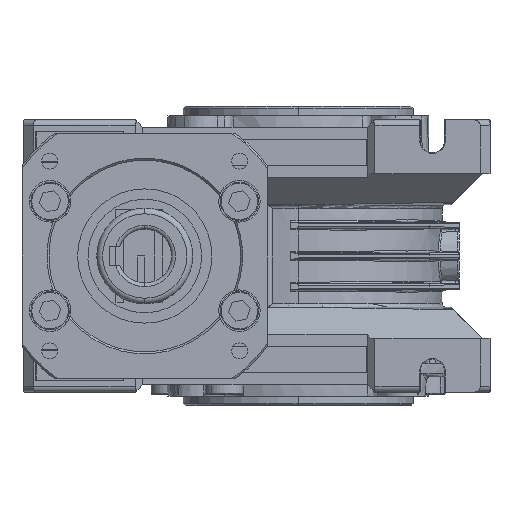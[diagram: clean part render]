
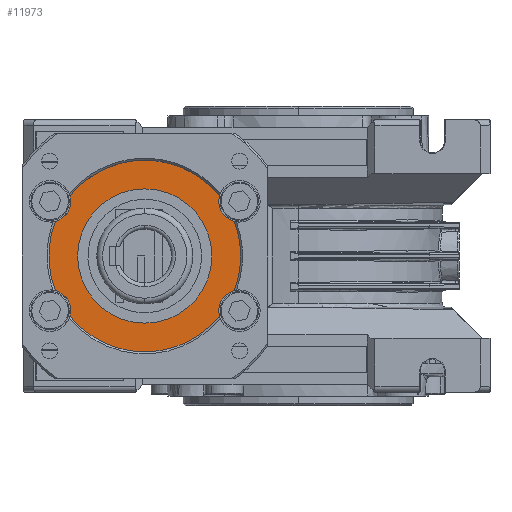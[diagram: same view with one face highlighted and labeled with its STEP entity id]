
A CAD part, left-side view. The second image highlights one B-rep face of the part: STEP entity #11973.
In plain terms, the highlighted planar face has unit normal (-1, 0, 0).
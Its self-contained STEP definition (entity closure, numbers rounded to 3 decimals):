
#103 = CIRCLE ( 'NONE', #39377, 5.4 ) ;
#1130 = EDGE_CURVE ( 'NONE', #15155, #16237, #71485, .T. ) ;
#1545 = FACE_BOUND ( 'NONE', #40374, .T. ) ;
#1933 = DIRECTION ( 'NONE',  ( 0., 0., -1. ) ) ;
#2255 = AXIS2_PLACEMENT_3D ( 'NONE', #63051, #17616, #51380 ) ;
#2259 = AXIS2_PLACEMENT_3D ( 'NONE', #19282, #29711, #2729 ) ;
#2729 = DIRECTION ( 'NONE',  ( 0., 0., -1. ) ) ;
#3965 = VERTEX_POINT ( 'NONE', #39524 ) ;
#4539 = ORIENTED_EDGE ( 'NONE', *, *, #48243, .T. ) ;
#5439 = CARTESIAN_POINT ( 'NONE',  ( -66., 63.314, -9.026 ) ) ;
#6163 = CARTESIAN_POINT ( 'NONE',  ( -66., 20.526, 15.677 ) ) ;
#6297 = EDGE_CURVE ( 'NONE', #14942, #48461, #19651, .T. ) ;
#7821 = CARTESIAN_POINT ( 'NONE',  ( -66., 15.318, -14.25 ) ) ;
#8361 = EDGE_CURVE ( 'NONE', #70045, #63647, #15912, .T. ) ;
#8575 = AXIS2_PLACEMENT_3D ( 'NONE', #11163, #50287, #60468 ) ;
#8757 = EDGE_CURVE ( 'NONE', #15155, #3965, #103, .T. ) ;
#9824 = DIRECTION ( 'NONE',  ( 0., 0., -1. ) ) ;
#10147 = VERTEX_POINT ( 'NONE', #51764 ) ;
#10858 = DIRECTION ( 'NONE',  ( 0., 0., -1. ) ) ;
#10883 = CARTESIAN_POINT ( 'NONE',  ( -66., 16.686, -9.026 ) ) ;
#11122 = CARTESIAN_POINT ( 'NONE',  ( -66., 64.682, 14.25 ) ) ;
#11163 = CARTESIAN_POINT ( 'NONE',  ( -66., 40., 0. ) ) ;
#11624 = ORIENTED_EDGE ( 'NONE', *, *, #58008, .T. ) ;
#11973 = ADVANCED_FACE ( 'NONE', ( #16322, #1545 ), #60251, .F. ) ;
#11992 = CARTESIAN_POINT ( 'NONE',  ( -66., 40., 0. ) ) ;
#12017 = CIRCLE ( 'NONE', #71288, 17.5 ) ;
#12348 = EDGE_CURVE ( 'NONE', #70045, #16237, #28394, .T. ) ;
#12595 = DIRECTION ( 'NONE',  ( 1., 0., 0. ) ) ;
#13688 = VERTEX_POINT ( 'NONE', #51269 ) ;
#14942 = VERTEX_POINT ( 'NONE', #5439 ) ;
#15155 = VERTEX_POINT ( 'NONE', #40753 ) ;
#15912 = CIRCLE ( 'NONE', #68347, 25. ) ;
#16237 = VERTEX_POINT ( 'NONE', #6163 ) ;
#16302 = DIRECTION ( 'NONE',  ( 1., 0., 0. ) ) ;
#16322 = FACE_OUTER_BOUND ( 'NONE', #31171, .T. ) ;
#16739 = DIRECTION ( 'NONE',  ( 0., 0., -1. ) ) ;
#17616 = DIRECTION ( 'NONE',  ( 1., 0., 0. ) ) ;
#18560 = DIRECTION ( 'NONE',  ( 0., 0., -1. ) ) ;
#18607 = AXIS2_PLACEMENT_3D ( 'NONE', #35024, #12595, #1933 ) ;
#19282 = CARTESIAN_POINT ( 'NONE',  ( -66., 64.682, -14.25 ) ) ;
#19651 = CIRCLE ( 'NONE', #2259, 5.4 ) ;
#20219 = CIRCLE ( 'NONE', #21571, 17.5 ) ;
#20787 = DIRECTION ( 'NONE',  ( 1., 0., 0. ) ) ;
#20914 = DIRECTION ( 'NONE',  ( 0., 0., -1. ) ) ;
#21571 = AXIS2_PLACEMENT_3D ( 'NONE', #56148, #61690, #56817 ) ;
#21900 = CARTESIAN_POINT ( 'NONE',  ( -66., 57.5, 0. ) ) ;
#22747 = ORIENTED_EDGE ( 'NONE', *, *, #8757, .T. ) ;
#23212 = CARTESIAN_POINT ( 'NONE',  ( -66., 59.474, -15.677 ) ) ;
#23613 = CARTESIAN_POINT ( 'NONE',  ( -66., 40., 0. ) ) ;
#23846 = DIRECTION ( 'NONE',  ( 1., 0., 0. ) ) ;
#24870 = CIRCLE ( 'NONE', #28803, 25. ) ;
#26517 = ORIENTED_EDGE ( 'NONE', *, *, #38167, .F. ) ;
#27069 = ORIENTED_EDGE ( 'NONE', *, *, #69785, .F. ) ;
#27690 = DIRECTION ( 'NONE',  ( 1., 0., 0. ) ) ;
#28394 = CIRCLE ( 'NONE', #18607, 5.4 ) ;
#28803 = AXIS2_PLACEMENT_3D ( 'NONE', #11992, #56279, #39122 ) ;
#29711 = DIRECTION ( 'NONE',  ( 1., 0., 0. ) ) ;
#31171 = EDGE_LOOP ( 'NONE', ( #42409, #60703, #46578, #22747, #26517, #39399, #42478, #27069, #11624 ) ) ;
#31347 = CARTESIAN_POINT ( 'NONE',  ( -66., 20.526, -15.677 ) ) ;
#35025 = EDGE_CURVE ( 'NONE', #13688, #10147, #20219, .T. ) ;
#35024 = CARTESIAN_POINT ( 'NONE',  ( -66., 15.318, 14.25 ) ) ;
#36112 = ORIENTED_EDGE ( 'NONE', *, *, #35025, .T. ) ;
#38167 = EDGE_CURVE ( 'NONE', #14942, #3965, #24870, .T. ) ;
#39122 = DIRECTION ( 'NONE',  ( 0., 0., -1. ) ) ;
#39270 = EDGE_CURVE ( 'NONE', #44393, #48461, #63969, .T. ) ;
#39377 = AXIS2_PLACEMENT_3D ( 'NONE', #11122, #27690, #16739 ) ;
#39399 = ORIENTED_EDGE ( 'NONE', *, *, #6297, .T. ) ;
#39524 = CARTESIAN_POINT ( 'NONE',  ( -66., 63.314, 9.026 ) ) ;
#40374 = EDGE_LOOP ( 'NONE', ( #4539, #36112 ) ) ;
#40753 = CARTESIAN_POINT ( 'NONE',  ( -66., 59.474, 15.677 ) ) ;
#42409 = ORIENTED_EDGE ( 'NONE', *, *, #8361, .F. ) ;
#42478 = ORIENTED_EDGE ( 'NONE', *, *, #39270, .F. ) ;
#44393 = VERTEX_POINT ( 'NONE', #68857 ) ;
#44624 = CIRCLE ( 'NONE', #50742, 5.4 ) ;
#45213 = AXIS2_PLACEMENT_3D ( 'NONE', #21900, #16302, #20914 ) ;
#46578 = ORIENTED_EDGE ( 'NONE', *, *, #1130, .F. ) ;
#48243 = EDGE_CURVE ( 'NONE', #10147, #13688, #12017, .T. ) ;
#48461 = VERTEX_POINT ( 'NONE', #23212 ) ;
#50287 = DIRECTION ( 'NONE',  ( 1., 0., 0. ) ) ;
#50742 = AXIS2_PLACEMENT_3D ( 'NONE', #7821, #64004, #18560 ) ;
#51269 = CARTESIAN_POINT ( 'NONE',  ( -66., 40., 17.5 ) ) ;
#51380 = DIRECTION ( 'NONE',  ( 0., 0., -1. ) ) ;
#51764 = CARTESIAN_POINT ( 'NONE',  ( -66., 40., -17.5 ) ) ;
#56148 = CARTESIAN_POINT ( 'NONE',  ( -66., 40., 0. ) ) ;
#56279 = DIRECTION ( 'NONE',  ( 1., 0., 0. ) ) ;
#56817 = DIRECTION ( 'NONE',  ( 0., 0., -1. ) ) ;
#57600 = DIRECTION ( 'NONE',  ( 0., 0., -1. ) ) ;
#58008 = EDGE_CURVE ( 'NONE', #63432, #63647, #44624, .T. ) ;
#60251 = PLANE ( 'NONE',  #45213 ) ;
#60468 = DIRECTION ( 'NONE',  ( 0., 0., -1. ) ) ;
#60703 = ORIENTED_EDGE ( 'NONE', *, *, #12348, .T. ) ;
#61162 = CARTESIAN_POINT ( 'NONE',  ( -66., 40., 0. ) ) ;
#61690 = DIRECTION ( 'NONE',  ( 1., 0., 0. ) ) ;
#62783 = CIRCLE ( 'NONE', #8575, 25. ) ;
#63051 = CARTESIAN_POINT ( 'NONE',  ( -66., 40., 0. ) ) ;
#63432 = VERTEX_POINT ( 'NONE', #31347 ) ;
#63639 = CARTESIAN_POINT ( 'NONE',  ( -66., 16.686, 9.026 ) ) ;
#63647 = VERTEX_POINT ( 'NONE', #10883 ) ;
#63969 = CIRCLE ( 'NONE', #67798, 25. ) ;
#64004 = DIRECTION ( 'NONE',  ( 1., 0., 0. ) ) ;
#65027 = CARTESIAN_POINT ( 'NONE',  ( -66., 40., 0. ) ) ;
#67798 = AXIS2_PLACEMENT_3D ( 'NONE', #61162, #71898, #10858 ) ;
#68347 = AXIS2_PLACEMENT_3D ( 'NONE', #23613, #23846, #57600 ) ;
#68857 = CARTESIAN_POINT ( 'NONE',  ( -66., 40., -25. ) ) ;
#69785 = EDGE_CURVE ( 'NONE', #63432, #44393, #62783, .T. ) ;
#70045 = VERTEX_POINT ( 'NONE', #63639 ) ;
#71288 = AXIS2_PLACEMENT_3D ( 'NONE', #65027, #20787, #9824 ) ;
#71485 = CIRCLE ( 'NONE', #2255, 25. ) ;
#71898 = DIRECTION ( 'NONE',  ( 1., 0., 0. ) ) ;
